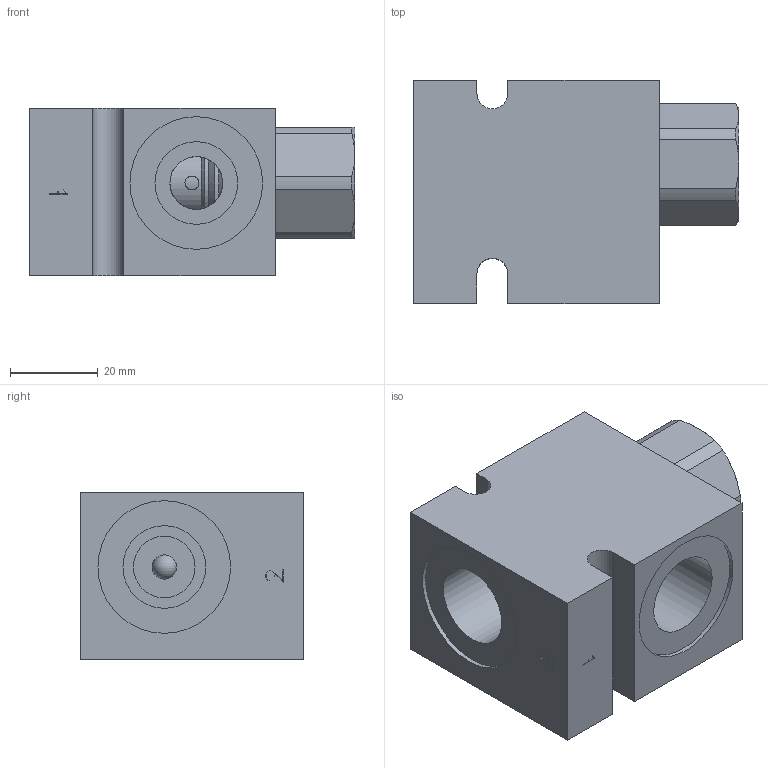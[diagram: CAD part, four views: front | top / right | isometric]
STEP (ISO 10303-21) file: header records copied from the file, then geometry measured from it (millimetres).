
FILE_DESCRIPTION( ( 'Unknown' ), '1' );
FILE_NAME( 'G:/Graphic Design/Graphic Design 2/Data Sheets/FLOW CONTROLS/2_STEP/Velocity Fuses/D-DECVF00-C2 .stp', 'Unknown', ( 'Unknown' ), ( 'Unknown' ), 'PSStep 16.0.42', 'Unknown', ' ' );
FILE_SCHEMA( ( 'AUTOMOTIVE_DESIGN { 1 0 10303 214 1 1 1 1 }' ) );
Length unit declared in the file: millimetre
Products named in the file (7): DECVF00; DECVF00-3D Full1; DECVF00-3D Full2; DECVF00-3D Full3; DECVF00-3D Full4; Assem1; B-DDEC2
Assembly tree (6 placements, depth 3):
  Assem1
    B-DDEC2
    DECVF00
      DECVF00-3D Full1
      DECVF00-3D Full2
      DECVF00-3D Full3
      DECVF00-3D Full4
Bounding box: 74.05 x 50.8 x 38.1 mm (x, y, z)
Surface area: 24737.9 mm2 (no closed solid volume)
Topology: 0 solids, 150 shells, 150 faces, 630 edges, 576 vertices
Faces by surface type: plane 72, cylinder 43, cone 32, torus 2, sphere 1
Full cylindrical faces by diameter (mm): 0.2 x2, 3.175 x6, 5.537 x1, 12 x1, 12.992 x1, 13.043 x1, 14 x1, 15.735 x1, 15.761 x2, 15.9 x1, 17.043 x1, 17.323 x1, 18.8 x4, 19.622 x1, 20.262 x2, 30.17 x2, 30.175 x1
Entity records: 8438 total; most frequent: CARTESIAN_POINT 2872, DIRECTION 822, VERTEX_POINT 560, ORIENTED_EDGE 558, EDGE_CURVE 558, AXIS2_PLACEMENT_3D 330, FACE_BOUND 224, EDGE_LOOP 222
